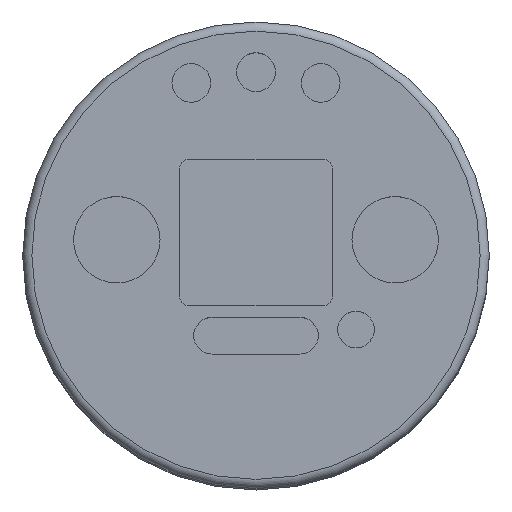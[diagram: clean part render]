
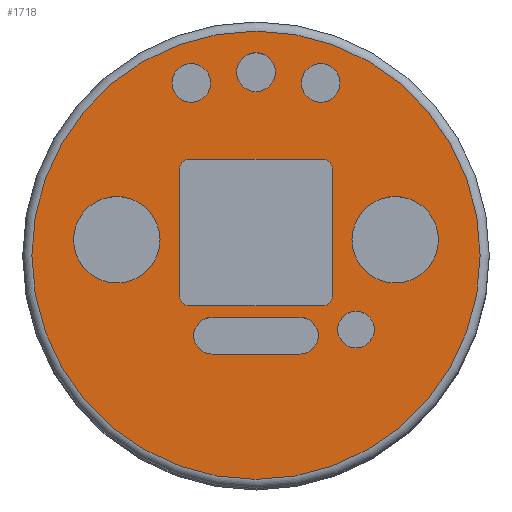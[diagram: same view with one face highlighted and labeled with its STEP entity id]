
A CAD part, top view. The second image highlights one B-rep face of the part: STEP entity #1718.
In plain terms, the highlighted planar face has unit normal (0, 0, 1).
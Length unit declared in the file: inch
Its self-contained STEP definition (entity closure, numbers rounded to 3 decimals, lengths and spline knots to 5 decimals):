
#73=FACE_BOUND('',#295,.T.);
#74=FACE_BOUND('',#296,.T.);
#75=FACE_BOUND('',#297,.T.);
#76=FACE_BOUND('',#298,.T.);
#77=FACE_BOUND('',#299,.T.);
#78=FACE_BOUND('',#300,.T.);
#79=FACE_BOUND('',#301,.T.);
#80=FACE_BOUND('',#302,.T.);
#169=FACE_OUTER_BOUND('',#294,.T.);
#294=EDGE_LOOP('',(#1466));
#295=EDGE_LOOP('',(#1467));
#296=EDGE_LOOP('',(#1468));
#297=EDGE_LOOP('',(#1469));
#298=EDGE_LOOP('',(#1470,#1471,#1472,#1473));
#299=EDGE_LOOP('',(#1474));
#300=EDGE_LOOP('',(#1475));
#301=EDGE_LOOP('',(#1476,#1477,#1478,#1479,#1480,#1481,#1482,#1483));
#302=EDGE_LOOP('',(#1484));
#360=CIRCLE('',#1864,0.1475);
#362=CIRCLE('',#1868,0.1475);
#365=CIRCLE('',#1873,0.03125);
#369=CIRCLE('',#1880,0.03125);
#370=CIRCLE('',#1882,0.03125);
#371=CIRCLE('',#1885,0.03125);
#377=CIRCLE('',#1895,0.76475);
#379=CIRCLE('',#1898,0.06603);
#380=CIRCLE('',#1899,0.0625);
#381=CIRCLE('',#1900,0.0625);
#382=CIRCLE('',#1901,0.0625);
#383=CIRCLE('',#1902,0.06603);
#384=CIRCLE('',#1903,0.06625);
#531=LINE('',#2845,#687);
#536=LINE('',#2859,#692);
#540=LINE('',#2889,#696);
#541=LINE('',#2892,#697);
#542=LINE('',#2897,#698);
#543=LINE('',#2898,#699);
#687=VECTOR('',#2322,0.3937);
#692=VECTOR('',#2337,0.3937);
#696=VECTOR('',#2373,0.3937);
#697=VECTOR('',#2376,0.3937);
#698=VECTOR('',#2381,0.3937);
#699=VECTOR('',#2382,0.3937);
#815=VERTEX_POINT('',#2807);
#817=VERTEX_POINT('',#2814);
#821=VERTEX_POINT('',#2824);
#822=VERTEX_POINT('',#2826);
#829=VERTEX_POINT('',#2844);
#830=VERTEX_POINT('',#2848);
#831=VERTEX_POINT('',#2852);
#832=VERTEX_POINT('',#2854);
#833=VERTEX_POINT('',#2858);
#834=VERTEX_POINT('',#2862);
#839=VERTEX_POINT('',#2879);
#840=VERTEX_POINT('',#2883);
#841=VERTEX_POINT('',#2885);
#842=VERTEX_POINT('',#2886);
#843=VERTEX_POINT('',#2888);
#844=VERTEX_POINT('',#2890);
#845=VERTEX_POINT('',#2893);
#846=VERTEX_POINT('',#2895);
#847=VERTEX_POINT('',#2899);
#1021=EDGE_CURVE('',#815,#815,#360,.T.);
#1024=EDGE_CURVE('',#817,#817,#362,.T.);
#1029=EDGE_CURVE('',#821,#822,#365,.T.);
#1038=EDGE_CURVE('',#829,#822,#531,.T.);
#1040=EDGE_CURVE('',#829,#830,#369,.T.);
#1043=EDGE_CURVE('',#831,#832,#370,.T.);
#1045=EDGE_CURVE('',#833,#832,#536,.T.);
#1047=EDGE_CURVE('',#833,#834,#371,.T.);
#1055=EDGE_CURVE('',#839,#839,#377,.T.);
#1057=EDGE_CURVE('',#840,#840,#379,.T.);
#1058=EDGE_CURVE('',#841,#842,#380,.T.);
#1059=EDGE_CURVE('',#842,#843,#540,.T.);
#1060=EDGE_CURVE('',#843,#844,#381,.T.);
#1061=EDGE_CURVE('',#844,#841,#541,.T.);
#1062=EDGE_CURVE('',#845,#845,#382,.T.);
#1063=EDGE_CURVE('',#846,#846,#383,.T.);
#1064=EDGE_CURVE('',#831,#830,#542,.T.);
#1065=EDGE_CURVE('',#821,#834,#543,.T.);
#1066=EDGE_CURVE('',#847,#847,#384,.T.);
#1466=ORIENTED_EDGE('',*,*,#1055,.F.);
#1467=ORIENTED_EDGE('',*,*,#1021,.T.);
#1468=ORIENTED_EDGE('',*,*,#1024,.T.);
#1469=ORIENTED_EDGE('',*,*,#1057,.T.);
#1470=ORIENTED_EDGE('',*,*,#1058,.T.);
#1471=ORIENTED_EDGE('',*,*,#1059,.T.);
#1472=ORIENTED_EDGE('',*,*,#1060,.T.);
#1473=ORIENTED_EDGE('',*,*,#1061,.T.);
#1474=ORIENTED_EDGE('',*,*,#1062,.T.);
#1475=ORIENTED_EDGE('',*,*,#1063,.T.);
#1476=ORIENTED_EDGE('',*,*,#1064,.T.);
#1477=ORIENTED_EDGE('',*,*,#1040,.F.);
#1478=ORIENTED_EDGE('',*,*,#1038,.T.);
#1479=ORIENTED_EDGE('',*,*,#1029,.F.);
#1480=ORIENTED_EDGE('',*,*,#1065,.T.);
#1481=ORIENTED_EDGE('',*,*,#1047,.F.);
#1482=ORIENTED_EDGE('',*,*,#1045,.T.);
#1483=ORIENTED_EDGE('',*,*,#1043,.F.);
#1484=ORIENTED_EDGE('',*,*,#1066,.T.);
#1619=PLANE('',#1897);
#1718=ADVANCED_FACE('',(#169,#73,#74,#75,#76,#77,#78,#79,#80),#1619,.T.);
#1864=AXIS2_PLACEMENT_3D('',#2808,#2284,#2285);
#1868=AXIS2_PLACEMENT_3D('',#2815,#2293,#2294);
#1873=AXIS2_PLACEMENT_3D('',#2827,#2305,#2306);
#1880=AXIS2_PLACEMENT_3D('',#2849,#2326,#2327);
#1882=AXIS2_PLACEMENT_3D('',#2855,#2332,#2333);
#1885=AXIS2_PLACEMENT_3D('',#2863,#2341,#2342);
#1895=AXIS2_PLACEMENT_3D('',#2880,#2363,#2364);
#1897=AXIS2_PLACEMENT_3D('',#2882,#2367,#2368);
#1898=AXIS2_PLACEMENT_3D('',#2884,#2369,#2370);
#1899=AXIS2_PLACEMENT_3D('',#2887,#2371,#2372);
#1900=AXIS2_PLACEMENT_3D('',#2891,#2374,#2375);
#1901=AXIS2_PLACEMENT_3D('',#2894,#2377,#2378);
#1902=AXIS2_PLACEMENT_3D('',#2896,#2379,#2380);
#1903=AXIS2_PLACEMENT_3D('',#2900,#2383,#2384);
#2284=DIRECTION('center_axis',(0.,0.,-1.));
#2285=DIRECTION('ref_axis',(-1.,0.,0.));
#2293=DIRECTION('center_axis',(0.,0.,-1.));
#2294=DIRECTION('ref_axis',(-1.,0.,0.));
#2305=DIRECTION('center_axis',(0.,0.,1.));
#2306=DIRECTION('ref_axis',(-0.707,-0.707,0.));
#2322=DIRECTION('',(-1.,0.,0.));
#2326=DIRECTION('center_axis',(0.,0.,1.));
#2327=DIRECTION('ref_axis',(0.707,-0.707,0.));
#2332=DIRECTION('center_axis',(0.,0.,1.));
#2333=DIRECTION('ref_axis',(0.707,0.707,0.));
#2337=DIRECTION('',(1.,0.,0.));
#2341=DIRECTION('center_axis',(0.,0.,1.));
#2342=DIRECTION('ref_axis',(-0.707,0.707,0.));
#2363=DIRECTION('center_axis',(0.,0.,-1.));
#2364=DIRECTION('ref_axis',(1.,0.,0.));
#2367=DIRECTION('center_axis',(0.,0.,1.));
#2368=DIRECTION('ref_axis',(1.,0.,0.));
#2369=DIRECTION('center_axis',(0.,0.,-1.));
#2370=DIRECTION('ref_axis',(1.,0.,0.));
#2371=DIRECTION('center_axis',(0.,0.,-1.));
#2372=DIRECTION('ref_axis',(0.,1.,0.));
#2373=DIRECTION('',(1.,0.,0.));
#2374=DIRECTION('center_axis',(0.,0.,-1.));
#2375=DIRECTION('ref_axis',(0.,-1.,0.));
#2376=DIRECTION('',(-1.,0.,0.));
#2377=DIRECTION('center_axis',(0.,0.,-1.));
#2378=DIRECTION('ref_axis',(1.,0.,0.));
#2379=DIRECTION('center_axis',(0.,0.,-1.));
#2380=DIRECTION('ref_axis',(1.,0.,0.));
#2381=DIRECTION('',(0.,-1.,0.));
#2382=DIRECTION('',(0.,1.,0.));
#2383=DIRECTION('center_axis',(0.,0.,-1.));
#2384=DIRECTION('ref_axis',(1.,0.,0.));
#2807=CARTESIAN_POINT('',(-0.3275,0.053,0.65));
#2808=CARTESIAN_POINT('Origin',(-0.475,0.053,0.65));
#2814=CARTESIAN_POINT('',(0.6225,0.053,0.65));
#2815=CARTESIAN_POINT('Origin',(0.475,0.053,0.65));
#2824=CARTESIAN_POINT('',(-0.26,-0.14075,0.65));
#2826=CARTESIAN_POINT('',(-0.22875,-0.172,0.65));
#2827=CARTESIAN_POINT('Origin',(-0.22875,-0.14075,0.65));
#2844=CARTESIAN_POINT('',(0.22875,-0.172,0.65));
#2845=CARTESIAN_POINT('',(-0.26,-0.172,0.65));
#2848=CARTESIAN_POINT('',(0.26,-0.14075,0.65));
#2849=CARTESIAN_POINT('Origin',(0.22875,-0.14075,0.65));
#2852=CARTESIAN_POINT('',(0.26,0.29675,0.65));
#2854=CARTESIAN_POINT('',(0.22875,0.328,0.65));
#2855=CARTESIAN_POINT('Origin',(0.22875,0.29675,0.65));
#2858=CARTESIAN_POINT('',(-0.22875,0.328,0.65));
#2859=CARTESIAN_POINT('',(0.26,0.328,0.65));
#2862=CARTESIAN_POINT('',(-0.26,0.29675,0.65));
#2863=CARTESIAN_POINT('Origin',(-0.22875,0.29675,0.65));
#2879=CARTESIAN_POINT('',(-0.76475,0.,0.65));
#2880=CARTESIAN_POINT('Origin',(0.,0.,0.65));
#2882=CARTESIAN_POINT('Origin',(0.,0.,0.65));
#2883=CARTESIAN_POINT('',(0.15479,0.58817,0.65));
#2884=CARTESIAN_POINT('Origin',(0.22082,0.58817,0.65));
#2885=CARTESIAN_POINT('',(-0.15,-0.337,0.65));
#2886=CARTESIAN_POINT('',(-0.15,-0.212,0.65));
#2887=CARTESIAN_POINT('Origin',(-0.15,-0.2745,0.65));
#2888=CARTESIAN_POINT('',(0.15,-0.212,0.65));
#2889=CARTESIAN_POINT('',(0.15,-0.212,0.65));
#2890=CARTESIAN_POINT('',(0.15,-0.337,0.65));
#2891=CARTESIAN_POINT('Origin',(0.15,-0.2745,0.65));
#2892=CARTESIAN_POINT('',(-0.15,-0.337,0.65));
#2893=CARTESIAN_POINT('',(0.27882,-0.25332,0.65));
#2894=CARTESIAN_POINT('Origin',(0.34132,-0.25332,0.65));
#2895=CARTESIAN_POINT('',(-0.28685,0.58817,0.65));
#2896=CARTESIAN_POINT('Origin',(-0.22082,0.58817,0.65));
#2897=CARTESIAN_POINT('',(0.26,-0.172,0.65));
#2898=CARTESIAN_POINT('',(-0.26,0.328,0.65));
#2899=CARTESIAN_POINT('',(-0.06625,0.62475,0.65));
#2900=CARTESIAN_POINT('Origin',(0.,0.62475,0.65));
